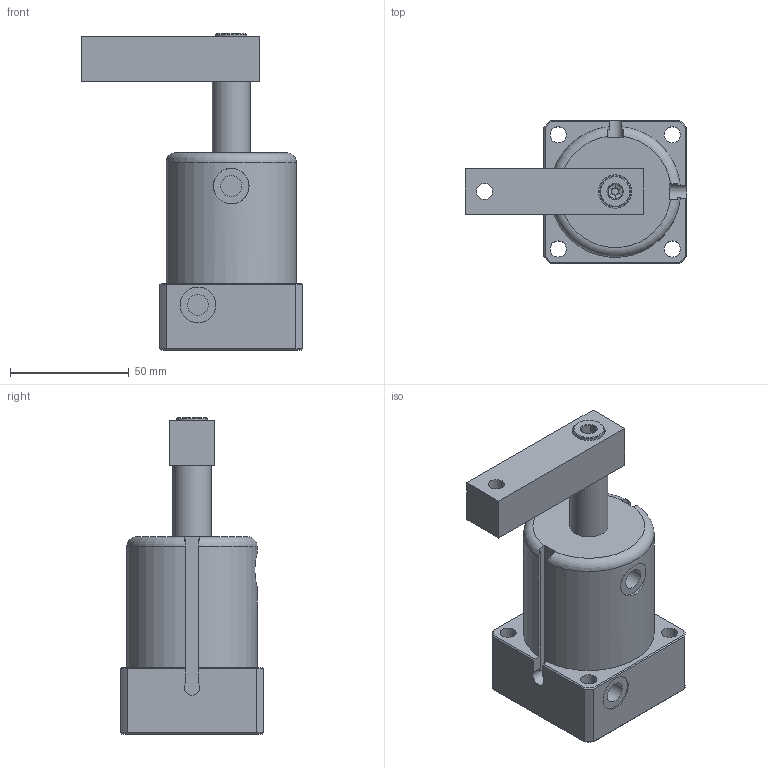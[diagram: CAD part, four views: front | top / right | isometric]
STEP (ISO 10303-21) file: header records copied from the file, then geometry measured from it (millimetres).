
FILE_DESCRIPTION(/* description */ ('Unknown'),/* implementation_level */ '2;1');
FILE_NAME(/* name */ 'ASC-MS40S-A',/* time_stamp */ '2019-05-20T15:24:30+08:00',/* author */ ('Unknown'),/* organization */ ('Unknown'),/* preprocessor_version */ 'ST-DEVELOPER v16.7',/* originating_system */ 'DEX',/* authorisation */ $);
FILE_SCHEMA (('AUTOMOTIVE_DESIGN {1 0 10303 214 3 1 1}'));
Length unit declared in the file: millimetre
Products named in the file (5): ASC-MS40S-A; ASC-MS40S-CYLINDER; ASC-4002-S-AXLE CENTRE; ASC-40S-A; ASC-4002-S-THREAD
Assembly tree (4 placements, depth 2):
  ASC-MS40S-A
    ASC-MS40S-CYLINDER
    ASC-4002-S-AXLE CENTRE
    ASC-40S-A
    ASC-4002-S-THREAD
Bounding box: 93 x 60 x 133 mm (x, y, z)
Volume: 218095.3 mm3; surface area: 52279.8 mm2
Topology: 4 solids, 4 shells, 139 faces, 306 edges, 191 vertices
Faces by surface type: plane 73, cylinder 30, cone 24, torus 6, bspline 6
Full cylindrical faces by diameter (mm): 4.1 x2, 6.8 x5, 8 x2, 8.8 x2, 9 x1, 13 x1, 14 x1, 15 x2, 16 x2, 40 x2
Entity records: 4819 total; most frequent: CARTESIAN_POINT 850, DIRECTION 601, ORIENTED_EDGE 536, EDGE_CURVE 268, AXIS2_PLACEMENT_3D 242, EDGE_LOOP 200, FACE_BOUND 200, VERTEX_POINT 186
